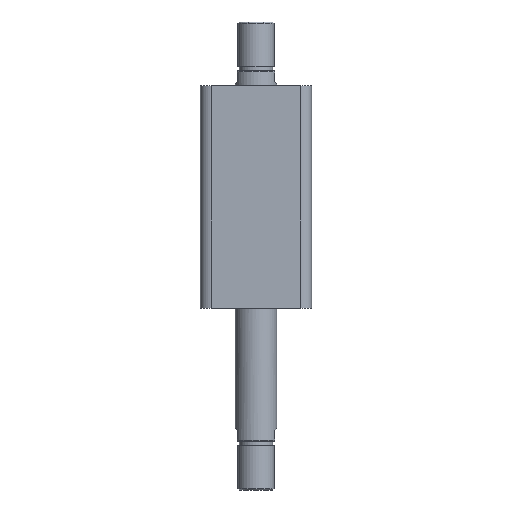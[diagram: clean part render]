
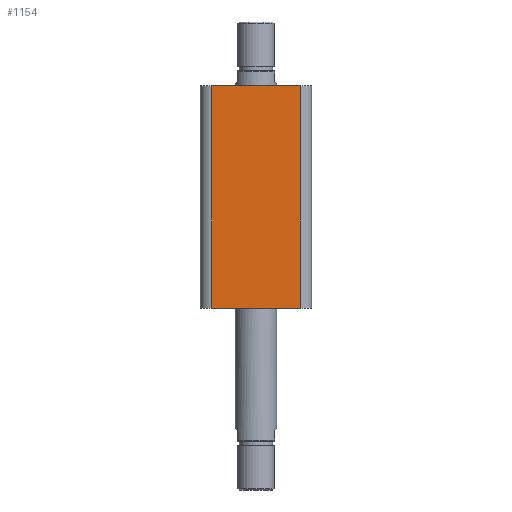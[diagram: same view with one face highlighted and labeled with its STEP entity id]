
A CAD part, front view. The second image highlights one B-rep face of the part: STEP entity #1154.
In plain terms, the highlighted planar face has unit normal (0, -1, 0).
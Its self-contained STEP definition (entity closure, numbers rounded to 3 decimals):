
#1154 = ADVANCED_FACE ( 'NONE', ( #2542 ), #1607, .F. ) ;
#1297 = ORIENTED_EDGE ( 'NONE', *, *, #2999, .T. ) ;
#1298 = ORIENTED_EDGE ( 'NONE', *, *, #3000, .T. ) ;
#1299 = ORIENTED_EDGE ( 'NONE', *, *, #3052, .T. ) ;
#1300 = ORIENTED_EDGE ( 'NONE', *, *, #3053, .F. ) ;
#1601 = CARTESIAN_POINT ( 'NONE',  ( -40., -40., 160. ) ) ;
#1607 = PLANE ( 'NONE',  #3268 ) ;
#1608 = DIRECTION ( 'NONE',  ( 0., 1., 0. ) ) ;
#1609 = DIRECTION ( 'NONE',  ( 0., 0., 1. ) ) ;
#1739 = CARTESIAN_POINT ( 'NONE',  ( -32., -40., 0. ) ) ;
#1742 = CARTESIAN_POINT ( 'NONE',  ( 32., -40., 0. ) ) ;
#1758 = CARTESIAN_POINT ( 'NONE',  ( -32., -40., 160. ) ) ;
#1790 = CARTESIAN_POINT ( 'NONE',  ( 32., -40., 160. ) ) ;
#1801 = DIRECTION ( 'NONE',  ( 0., 0., 1. ) ) ;
#1805 = CARTESIAN_POINT ( 'NONE',  ( -40., -40., 0. ) ) ;
#1806 = CARTESIAN_POINT ( 'NONE',  ( 32., -40., 160. ) ) ;
#1810 = DIRECTION ( 'NONE',  ( 1., 0., 0. ) ) ;
#1944 = DIRECTION ( 'NONE',  ( 0., 0., -1. ) ) ;
#1945 = CARTESIAN_POINT ( 'NONE',  ( -32., -40., 160. ) ) ;
#1949 = CARTESIAN_POINT ( 'NONE',  ( -40., -40., 160. ) ) ;
#1950 = DIRECTION ( 'NONE',  ( 1., 0., 0. ) ) ;
#2048 = VERTEX_POINT ( 'NONE', #1739 ) ;
#2051 = VERTEX_POINT ( 'NONE', #1742 ) ;
#2067 = VERTEX_POINT ( 'NONE', #1758 ) ;
#2294 = EDGE_LOOP ( 'NONE', ( #1300, #1299, #1298, #1297 ) ) ;
#2463 = VERTEX_POINT ( 'NONE', #1790 ) ;
#2542 = FACE_OUTER_BOUND ( 'NONE', #2294, .T. ) ;
#2602 = LINE ( 'NONE', #1806, #2615 ) ;
#2613 = LINE ( 'NONE', #1805, #2617 ) ;
#2615 = VECTOR ( 'NONE', #1801, 1000. ) ;
#2617 = VECTOR ( 'NONE', #1810, 1000. ) ;
#2683 = LINE ( 'NONE', #1945, #2687 ) ;
#2686 = LINE ( 'NONE', #1949, #2689 ) ;
#2687 = VECTOR ( 'NONE', #1944, 1000. ) ;
#2689 = VECTOR ( 'NONE', #1950, 1000. ) ;
#2999 = EDGE_CURVE ( 'NONE', #2051, #2463, #2602, .T. ) ;
#3000 = EDGE_CURVE ( 'NONE', #2048, #2051, #2613, .T. ) ;
#3052 = EDGE_CURVE ( 'NONE', #2067, #2048, #2683, .T. ) ;
#3053 = EDGE_CURVE ( 'NONE', #2067, #2463, #2686, .T. ) ;
#3268 = AXIS2_PLACEMENT_3D ( 'NONE', #1601, #1608, #1609 ) ;
